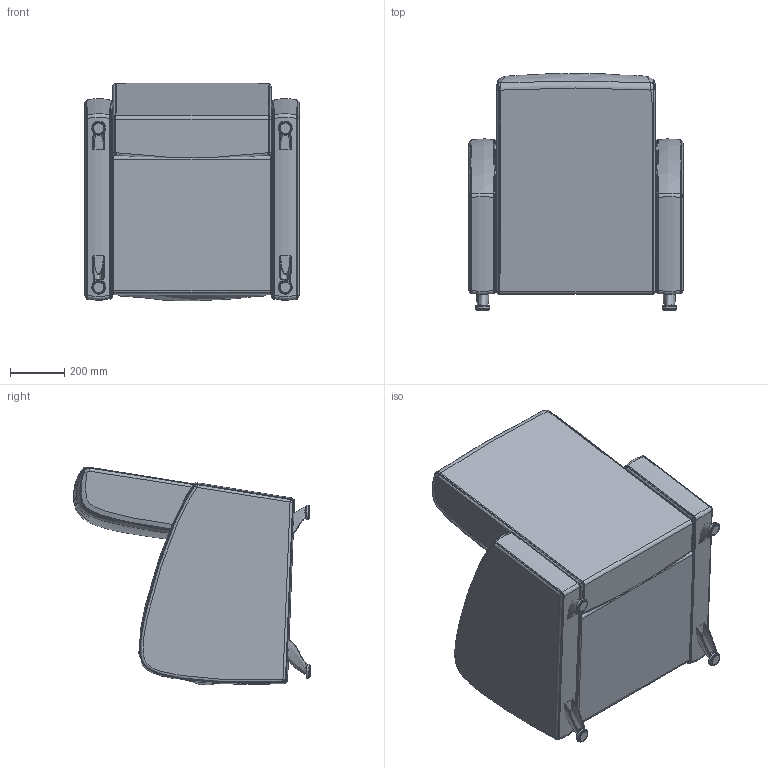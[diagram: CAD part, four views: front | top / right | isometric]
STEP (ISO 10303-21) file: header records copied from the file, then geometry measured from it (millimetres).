
FILE_DESCRIPTION(/* description */ (''),/* implementation_level */ '2;1');
FILE_NAME(/* name */ '590.step',/* time_stamp */ '2026-05-04T14:59:41-07:00',/* author */ (''),/* organization */ (''),/* preprocessor_version */ 'ST-DEVELOPER v20.1',/* originating_system */ 'Autodesk Translation Framework v14.24.0.0',/* authorisation */ '');
FILE_SCHEMA (('AUTOMOTIVE_DESIGN { 1 0 10303 214 3 1 1 }'));
Length unit declared in the file: inch
Products named in the file (1): 590
Bounding box: 787.4 x 870.46 x 800.69 mm (x, y, z)
Volume: 269487295.3 mm3; surface area: 8397691 mm2
Topology: 23 solids, 23 shells, 370 faces, 747 edges, 427 vertices
Faces by surface type: bspline 181, plane 60, cylinder 45, sphere 44, torus 40
Entity records: 29893 total; most frequent: CARTESIAN_POINT 23134, ORIENTED_EDGE 1494, DIRECTION 1152, EDGE_CURVE 747, AXIS2_PLACEMENT_3D 538, VERTEX_POINT 427, EDGE_LOOP 374, FACE_OUTER_BOUND 370
